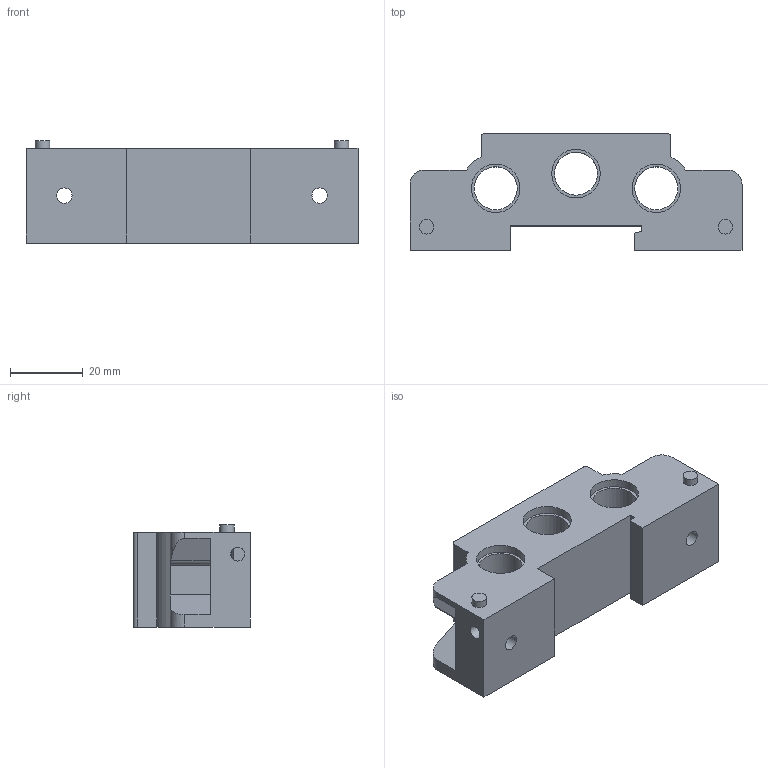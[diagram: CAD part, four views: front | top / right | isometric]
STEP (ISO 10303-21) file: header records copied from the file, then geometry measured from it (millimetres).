
FILE_DESCRIPTION((''),'2;1');
FILE_NAME('I:\Area Tecnica\Disegni\VARIE-3D\Componenti\400\STEP\T488_01.stp','2008-10-10T08:12:06',('pilonfr1'),(''),'Autodesk Inventor 2009','Autodesk Inventor 2009','');
FILE_SCHEMA(('AUTOMOTIVE_DESIGN { 1 0 10303 214 1 1 1 1 }'));
Length unit declared in the file: millimetre
Products named in the file (1): T488_01
Bounding box: 91 x 32 x 28 mm (x, y, z)
Volume: 45207.2 mm3; surface area: 15572.8 mm2
Topology: 1 solids, 1 shells, 85 faces, 202 edges, 133 vertices
Faces by surface type: plane 39, bspline 23, cylinder 23
Full cylindrical faces by diameter (mm): 3.8 x1, 4 x4, 11.8 x3, 13.3 x3
Entity records: 2801 total; most frequent: CARTESIAN_POINT 912, DIRECTION 364, ORIENTED_EDGE 348, EDGE_CURVE 174, EDGE_LOOP 142, AXIS2_PLACEMENT_3D 134, VERTEX_POINT 130, VECTOR 96
